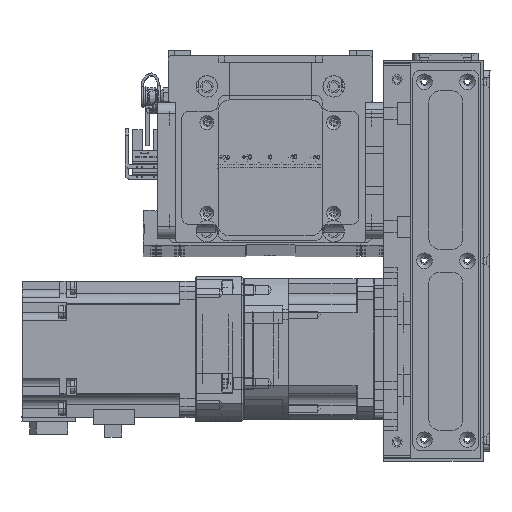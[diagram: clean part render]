
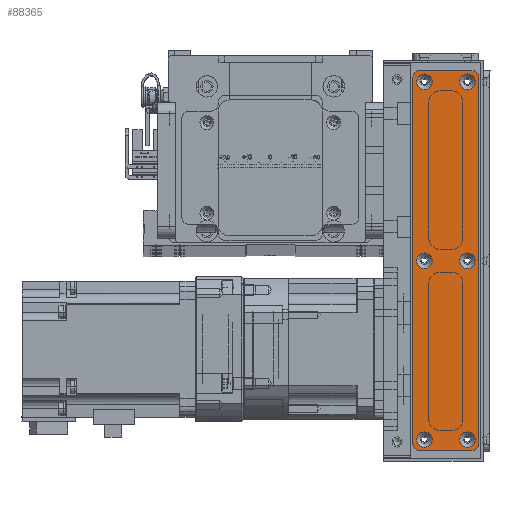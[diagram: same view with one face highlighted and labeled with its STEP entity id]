
A CAD part, top view. The second image highlights one B-rep face of the part: STEP entity #88365.
In plain terms, the highlighted planar face has unit normal (0, 0, 1).
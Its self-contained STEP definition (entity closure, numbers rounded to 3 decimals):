
#3362=FACE_BOUND('',#13019,.T.);
#3363=FACE_BOUND('',#13020,.T.);
#3364=FACE_BOUND('',#13021,.T.);
#3365=FACE_BOUND('',#13022,.T.);
#3366=FACE_BOUND('',#13023,.T.);
#3367=FACE_BOUND('',#13024,.T.);
#7762=FACE_OUTER_BOUND('',#13018,.T.);
#13018=EDGE_LOOP('',(#79569,#79570,#79571,#79572,#79573,#79574,#79575,#79576));
#13019=EDGE_LOOP('',(#79577));
#13020=EDGE_LOOP('',(#79578));
#13021=EDGE_LOOP('',(#79579));
#13022=EDGE_LOOP('',(#79580));
#13023=EDGE_LOOP('',(#79581));
#13024=EDGE_LOOP('',(#79582));
#15591=CIRCLE('',#96201,3.45);
#15594=CIRCLE('',#96206,3.45);
#15597=CIRCLE('',#96211,3.45);
#15600=CIRCLE('',#96216,3.45);
#15603=CIRCLE('',#96221,3.45);
#15606=CIRCLE('',#96226,3.45);
#15613=CIRCLE('',#96236,3.);
#15614=CIRCLE('',#96239,3.);
#15615=CIRCLE('',#96242,3.);
#15616=CIRCLE('',#96245,3.);
#24909=LINE('',#149056,#34310);
#24912=LINE('',#149064,#34313);
#24915=LINE('',#149072,#34316);
#24918=LINE('',#149079,#34319);
#34310=VECTOR('',#119726,10.);
#34313=VECTOR('',#119735,10.);
#34316=VECTOR('',#119744,10.);
#34319=VECTOR('',#119753,10.);
#42575=VERTEX_POINT('',#148972);
#42578=VERTEX_POINT('',#148982);
#42581=VERTEX_POINT('',#148992);
#42584=VERTEX_POINT('',#149002);
#42587=VERTEX_POINT('',#149012);
#42590=VERTEX_POINT('',#149022);
#42601=VERTEX_POINT('',#149049);
#42602=VERTEX_POINT('',#149051);
#42603=VERTEX_POINT('',#149055);
#42604=VERTEX_POINT('',#149059);
#42605=VERTEX_POINT('',#149063);
#42606=VERTEX_POINT('',#149067);
#42607=VERTEX_POINT('',#149071);
#42608=VERTEX_POINT('',#149075);
#54956=EDGE_CURVE('',#42575,#42575,#15591,.T.);
#54961=EDGE_CURVE('',#42578,#42578,#15594,.T.);
#54966=EDGE_CURVE('',#42581,#42581,#15597,.T.);
#54971=EDGE_CURVE('',#42584,#42584,#15600,.T.);
#54976=EDGE_CURVE('',#42587,#42587,#15603,.T.);
#54981=EDGE_CURVE('',#42590,#42590,#15606,.T.);
#54995=EDGE_CURVE('',#42602,#42601,#15613,.T.);
#54997=EDGE_CURVE('',#42603,#42602,#24909,.T.);
#54999=EDGE_CURVE('',#42604,#42603,#15614,.T.);
#55001=EDGE_CURVE('',#42605,#42604,#24912,.T.);
#55003=EDGE_CURVE('',#42606,#42605,#15615,.T.);
#55005=EDGE_CURVE('',#42607,#42606,#24915,.T.);
#55007=EDGE_CURVE('',#42608,#42607,#15616,.T.);
#55009=EDGE_CURVE('',#42601,#42608,#24918,.T.);
#79569=ORIENTED_EDGE('',*,*,#55009,.T.);
#79570=ORIENTED_EDGE('',*,*,#55007,.T.);
#79571=ORIENTED_EDGE('',*,*,#55005,.T.);
#79572=ORIENTED_EDGE('',*,*,#55003,.T.);
#79573=ORIENTED_EDGE('',*,*,#55001,.T.);
#79574=ORIENTED_EDGE('',*,*,#54999,.T.);
#79575=ORIENTED_EDGE('',*,*,#54997,.T.);
#79576=ORIENTED_EDGE('',*,*,#54995,.T.);
#79577=ORIENTED_EDGE('',*,*,#54956,.T.);
#79578=ORIENTED_EDGE('',*,*,#54961,.T.);
#79579=ORIENTED_EDGE('',*,*,#54966,.T.);
#79580=ORIENTED_EDGE('',*,*,#54971,.T.);
#79581=ORIENTED_EDGE('',*,*,#54976,.T.);
#79582=ORIENTED_EDGE('',*,*,#54981,.T.);
#83909=PLANE('',#96247);
#88365=ADVANCED_FACE('',(#7762,#3362,#3363,#3364,#3365,#3366,#3367),#83909,
 .T.);
#96201=AXIS2_PLACEMENT_3D('',#148973,#119634,#119635);
#96206=AXIS2_PLACEMENT_3D('',#148983,#119646,#119647);
#96211=AXIS2_PLACEMENT_3D('',#148993,#119658,#119659);
#96216=AXIS2_PLACEMENT_3D('',#149003,#119670,#119671);
#96221=AXIS2_PLACEMENT_3D('',#149013,#119682,#119683);
#96226=AXIS2_PLACEMENT_3D('',#149023,#119694,#119695);
#96236=AXIS2_PLACEMENT_3D('',#149052,#119721,#119722);
#96239=AXIS2_PLACEMENT_3D('',#149060,#119730,#119731);
#96242=AXIS2_PLACEMENT_3D('',#149068,#119739,#119740);
#96245=AXIS2_PLACEMENT_3D('',#149076,#119748,#119749);
#96247=AXIS2_PLACEMENT_3D('',#149080,#119754,#119755);
#119634=DIRECTION('center_axis',(0.,0.,-1.));
#119635=DIRECTION('ref_axis',(1.,0.,0.));
#119646=DIRECTION('center_axis',(0.,0.,-1.));
#119647=DIRECTION('ref_axis',(1.,0.,0.));
#119658=DIRECTION('center_axis',(0.,0.,-1.));
#119659=DIRECTION('ref_axis',(1.,0.,0.));
#119670=DIRECTION('center_axis',(0.,0.,-1.));
#119671=DIRECTION('ref_axis',(1.,0.,0.));
#119682=DIRECTION('center_axis',(0.,0.,-1.));
#119683=DIRECTION('ref_axis',(1.,0.,0.));
#119694=DIRECTION('center_axis',(0.,0.,-1.));
#119695=DIRECTION('ref_axis',(1.,0.,0.));
#119721=DIRECTION('center_axis',(0.,0.,1.));
#119722=DIRECTION('ref_axis',(-1.,0.,0.));
#119726=DIRECTION('',(0.,1.,0.));
#119730=DIRECTION('center_axis',(0.,0.,1.));
#119731=DIRECTION('ref_axis',(0.,1.,0.));
#119735=DIRECTION('',(1.,0.,0.));
#119739=DIRECTION('center_axis',(0.,0.,1.));
#119740=DIRECTION('ref_axis',(1.,0.,0.));
#119744=DIRECTION('',(0.,-1.,0.));
#119748=DIRECTION('center_axis',(0.,0.,1.));
#119749=DIRECTION('ref_axis',(0.,-1.,0.));
#119753=DIRECTION('',(-1.,0.,0.));
#119754=DIRECTION('center_axis',(0.,0.,1.));
#119755=DIRECTION('ref_axis',(1.,0.,0.));
#148972=CARTESIAN_POINT('',(-3.45,9.5,1.5));
#148973=CARTESIAN_POINT('Origin',(0.,9.5,1.5));
#148982=CARTESIAN_POINT('',(75.55,-9.5,1.5));
#148983=CARTESIAN_POINT('Origin',(79.,-9.5,1.5));
#148992=CARTESIAN_POINT('',(-82.45,9.5,1.5));
#148993=CARTESIAN_POINT('Origin',(-79.,9.5,1.5));
#149002=CARTESIAN_POINT('',(75.55,9.5,1.5));
#149003=CARTESIAN_POINT('Origin',(79.,9.5,1.5));
#149012=CARTESIAN_POINT('',(-82.45,-9.5,1.5));
#149013=CARTESIAN_POINT('Origin',(-79.,-9.5,1.5));
#149022=CARTESIAN_POINT('',(-3.45,-9.5,1.5));
#149023=CARTESIAN_POINT('Origin',(0.,-9.5,1.5));
#149049=CARTESIAN_POINT('',(81.,14.5,1.5));
#149051=CARTESIAN_POINT('',(84.,11.5,1.5));
#149052=CARTESIAN_POINT('Origin',(81.,11.5,1.5));
#149055=CARTESIAN_POINT('',(84.,-11.5,1.5));
#149056=CARTESIAN_POINT('',(84.,11.5,1.5));
#149059=CARTESIAN_POINT('',(81.,-14.5,1.5));
#149060=CARTESIAN_POINT('Origin',(81.,-11.5,1.5));
#149063=CARTESIAN_POINT('',(-81.,-14.5,1.5));
#149064=CARTESIAN_POINT('',(81.,-14.5,1.5));
#149067=CARTESIAN_POINT('',(-84.,-11.5,1.5));
#149068=CARTESIAN_POINT('Origin',(-81.,-11.5,1.5));
#149071=CARTESIAN_POINT('',(-84.,11.5,1.5));
#149072=CARTESIAN_POINT('',(-84.,-11.5,1.5));
#149075=CARTESIAN_POINT('',(-81.,14.5,1.5));
#149076=CARTESIAN_POINT('Origin',(-81.,11.5,1.5));
#149079=CARTESIAN_POINT('',(-81.,14.5,1.5));
#149080=CARTESIAN_POINT('Origin',(0.,0.,
1.5));
